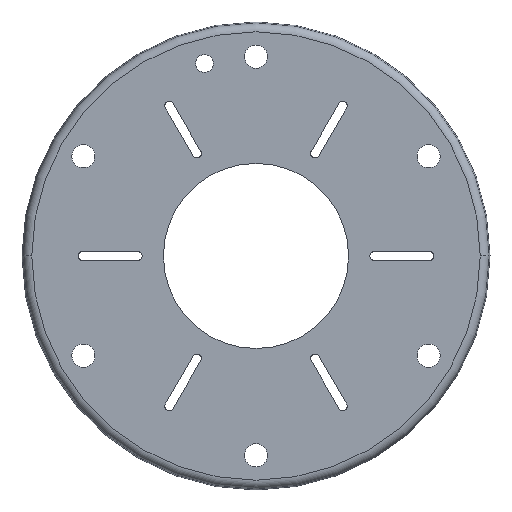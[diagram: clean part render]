
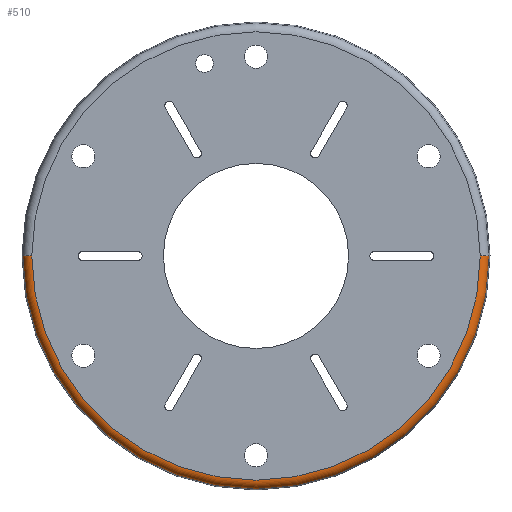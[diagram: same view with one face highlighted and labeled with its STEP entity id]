
A CAD part, top view. The second image highlights one B-rep face of the part: STEP entity #510.
In plain terms, the highlighted toroidal (fillet/blend) face has major radius 62.998 mm and minor radius 2.5 mm.
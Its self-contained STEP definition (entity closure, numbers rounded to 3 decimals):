
#9 = EDGE_CURVE ( 'NONE', #1050, #1910, #1871, .T. ) ;
#47 = DIRECTION ( 'NONE',  ( 0., 0., -1. ) ) ;
#63 = EDGE_LOOP ( 'NONE', ( #557, #1281, #607, #1953 ) ) ;
#179 = FACE_OUTER_BOUND ( 'NONE', #63, .T. ) ;
#210 = DIRECTION ( 'NONE',  ( 0., -1., 0. ) ) ;
#323 = DIRECTION ( 'NONE',  ( 0., 0., 1. ) ) ;
#324 = DIRECTION ( 'NONE',  ( 0., 1., 0. ) ) ;
#410 = VERTEX_POINT ( 'NONE', #1826 ) ;
#473 = DIRECTION ( 'NONE',  ( 1., 0., 0. ) ) ;
#480 = AXIS2_PLACEMENT_3D ( 'NONE', #844, #1169, #1313 ) ;
#510 = ADVANCED_FACE ( 'NONE', ( #179 ), #1182, .T. ) ;
#557 = ORIENTED_EDGE ( 'NONE', *, *, #9, .F. ) ;
#567 = EDGE_CURVE ( 'NONE', #1619, #410, #1669, .T. ) ;
#607 = ORIENTED_EDGE ( 'NONE', *, *, #567, .T. ) ;
#640 = CARTESIAN_POINT ( 'NONE',  ( 0., 0., -2.5 ) ) ;
#790 = CARTESIAN_POINT ( 'NONE',  ( -62.998, 0., -2.5 ) ) ;
#844 = CARTESIAN_POINT ( 'NONE',  ( 0., 0., -1.853 ) ) ;
#1043 = CARTESIAN_POINT ( 'NONE',  ( -65.413, 0., -1.853 ) ) ;
#1050 = VERTEX_POINT ( 'NONE', #1043 ) ;
#1099 = DIRECTION ( 'NONE',  ( -1., 0., 0. ) ) ;
#1169 = DIRECTION ( 'NONE',  ( 0., 0., 1. ) ) ;
#1172 = CARTESIAN_POINT ( 'NONE',  ( 62.998, 0., -2.5 ) ) ;
#1182 = TOROIDAL_SURFACE ( 'NONE', #1574, 62.998, 2.5 ) ;
#1216 = EDGE_CURVE ( 'NONE', #1910, #410, #1430, .T. ) ;
#1273 = CIRCLE ( 'NONE', #480, 65.413 ) ;
#1281 = ORIENTED_EDGE ( 'NONE', *, *, #1808, .T. ) ;
#1313 = DIRECTION ( 'NONE',  ( 1., 0., 0. ) ) ;
#1430 = CIRCLE ( 'NONE', #1951, 62.998 ) ;
#1574 = AXIS2_PLACEMENT_3D ( 'NONE', #640, #323, #473 ) ;
#1592 = CARTESIAN_POINT ( 'NONE',  ( 0., 0., 0. ) ) ;
#1604 = AXIS2_PLACEMENT_3D ( 'NONE', #1172, #210, #47 ) ;
#1619 = VERTEX_POINT ( 'NONE', #1725 ) ;
#1669 = CIRCLE ( 'NONE', #1604, 2.5 ) ;
#1725 = CARTESIAN_POINT ( 'NONE',  ( 65.413, 0., -1.853 ) ) ;
#1745 = AXIS2_PLACEMENT_3D ( 'NONE', #790, #324, #1099 ) ;
#1798 = CARTESIAN_POINT ( 'NONE',  ( -62.998, 0., 0. ) ) ;
#1808 = EDGE_CURVE ( 'NONE', #1050, #1619, #1273, .T. ) ;
#1826 = CARTESIAN_POINT ( 'NONE',  ( 62.998, 0., 0. ) ) ;
#1871 = CIRCLE ( 'NONE', #1745, 2.5 ) ;
#1878 = DIRECTION ( 'NONE',  ( 1., 0., 0. ) ) ;
#1888 = DIRECTION ( 'NONE',  ( 0., 0., 1. ) ) ;
#1910 = VERTEX_POINT ( 'NONE', #1798 ) ;
#1951 = AXIS2_PLACEMENT_3D ( 'NONE', #1592, #1888, #1878 ) ;
#1953 = ORIENTED_EDGE ( 'NONE', *, *, #1216, .F. ) ;
